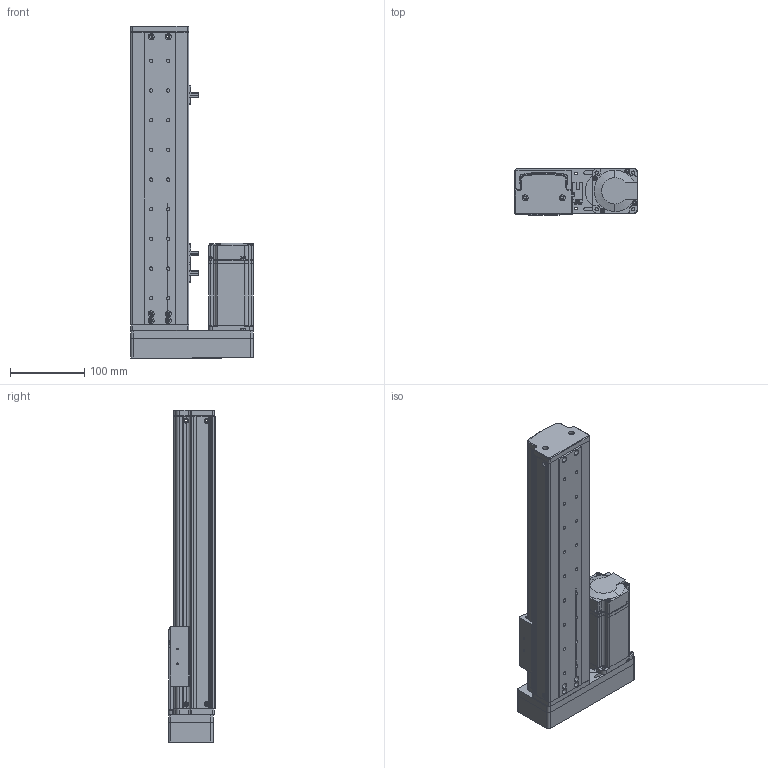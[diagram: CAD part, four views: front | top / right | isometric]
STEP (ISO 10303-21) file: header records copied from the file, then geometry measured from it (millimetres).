
FILE_DESCRIPTION (( 'STEP AP214' ), '1' );
FILE_NAME ('KSD75S-S240-ML-CM.STEP', '2019-10-18T06:55:04', ( '微软用户' ), ( '微软中国' ), 'SwSTEP 2.0', 'SolidWorks 2014', '' );
FILE_SCHEMA (( 'AUTOMOTIVE_DESIGN' ));
Length unit declared in the file: millimetre
Products named in the file (12): KSD75S-S240-ML-CM; MGW15H賑寢240俴最; MGW15H賑寢240俴最 ; 75遵賑雄釱; 75遵耀郪耜啣-240俴最; 75裔啣-240俴最; ヶ傷啣; 綴傷啣 ; 75宽马达安装板连板左右折丝杆; 75宽模组保护罩左右折; MHMD042G1CA_2_03; U倰嫖萇EEㄜSX672
Assembly tree (14 placements, depth 3):
  KSD75S-S240-ML-CM
    MGW15H賑寢240俴最 
      MGW15H賑寢240俴最
    75遵賑雄釱
    75遵耀郪耜啣-240俴最  x2
    75裔啣-240俴最
    ヶ傷啣
    綴傷啣 
    75宽马达安装板连板左右折丝杆
    75宽模组保护罩左右折
    MHMD042G1CA_2_03
    U倰嫖萇EEㄜSX672  x3
Bounding box: 165 x 63 x 447.5 mm (x, y, z)
Volume: 686758.8 mm3; surface area: 430010 mm2
Topology: 12 solids, 13 shells, 1401 faces, 3986 edges, 2601 vertices
Faces by surface type: cylinder 651, plane 603, cone 129, bspline 18
Entity records: 44974 total; most frequent: CARTESIAN_POINT 8603, DIRECTION 6646, ORIENTED_EDGE 6252, EDGE_CURVE 3197, AXIS2_PLACEMENT_3D 2423, VERTEX_POINT 2119, VECTOR 1800, LINE 1800
